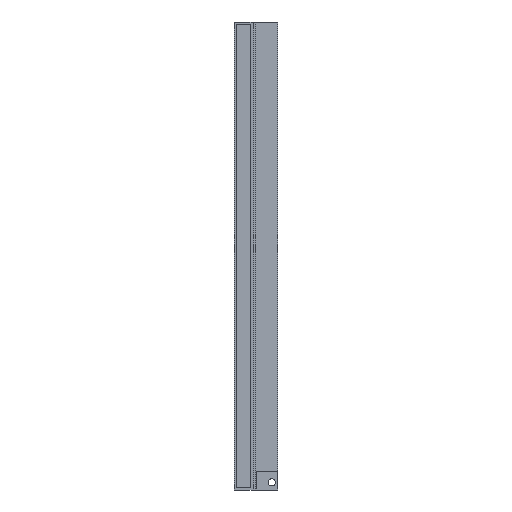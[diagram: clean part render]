
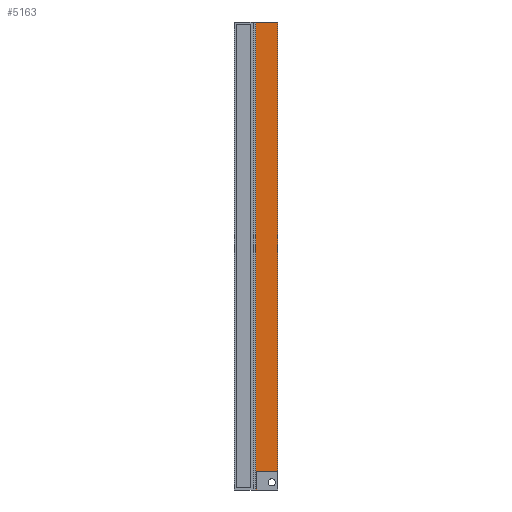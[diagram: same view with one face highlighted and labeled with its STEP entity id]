
A CAD part, front view. The second image highlights one B-rep face of the part: STEP entity #5163.
In plain terms, the highlighted planar face has unit normal (0, -1, 0).
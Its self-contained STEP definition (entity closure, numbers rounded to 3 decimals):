
#5127 = EDGE_CURVE('',#5128,#5130,#5132,.T.);
#5128 = VERTEX_POINT('',#5129);
#5129 = CARTESIAN_POINT('',(572.6,409.238,2.5));
#5130 = VERTEX_POINT('',#5131);
#5131 = CARTESIAN_POINT('',(572.6,409.238,628.5));
#5132 = LINE('',#5133,#5134);
#5133 = CARTESIAN_POINT('',(572.6,409.238,-4842.25));
#5134 = VECTOR('',#5135,1.);
#5135 = DIRECTION('',(0.,0.,1.));
#5163 = ADVANCED_FACE('',(#5164,#5189),#5200,.T.);
#5164 = FACE_BOUND('',#5165,.T.);
#5165 = EDGE_LOOP('',(#5166,#5167,#5175,#5183));
#5166 = ORIENTED_EDGE('',*,*,#5127,.F.);
#5167 = ORIENTED_EDGE('',*,*,#5168,.T.);
#5168 = EDGE_CURVE('',#5128,#5169,#5171,.T.);
#5169 = VERTEX_POINT('',#5170);
#5170 = CARTESIAN_POINT('',(602.5,409.238,2.5));
#5171 = LINE('',#5172,#5173);
#5172 = CARTESIAN_POINT('',(561.512,409.238,2.5));
#5173 = VECTOR('',#5174,1.);
#5174 = DIRECTION('',(1.,0.,0.));
#5175 = ORIENTED_EDGE('',*,*,#5176,.F.);
#5176 = EDGE_CURVE('',#5177,#5169,#5179,.T.);
#5177 = VERTEX_POINT('',#5178);
#5178 = CARTESIAN_POINT('',(602.5,409.238,628.5));
#5179 = LINE('',#5180,#5181);
#5180 = CARTESIAN_POINT('',(602.5,409.238,-49.881));
#5181 = VECTOR('',#5182,1.);
#5182 = DIRECTION('',(0.,0.,-1.));
#5183 = ORIENTED_EDGE('',*,*,#5184,.F.);
#5184 = EDGE_CURVE('',#5130,#5177,#5185,.T.);
#5185 = LINE('',#5186,#5187);
#5186 = CARTESIAN_POINT('',(561.512,409.238,628.5));
#5187 = VECTOR('',#5188,1.);
#5188 = DIRECTION('',(1.,0.,0.));
#5189 = FACE_BOUND('',#5190,.T.);
#5190 = EDGE_LOOP('',(#5191));
#5191 = ORIENTED_EDGE('',*,*,#5192,.T.);
#5192 = EDGE_CURVE('',#5193,#5193,#5195,.T.);
#5193 = VERTEX_POINT('',#5194);
#5194 = CARTESIAN_POINT('',(594.332,409.238,17.863));
#5195 = CIRCLE('',#5196,5.163);
#5196 = AXIS2_PLACEMENT_3D('',#5197,#5198,#5199);
#5197 = CARTESIAN_POINT('',(594.332,409.238,12.7));
#5198 = DIRECTION('',(0.,1.,0.));
#5199 = DIRECTION('',(0.,0.,1.));
#5200 = PLANE('',#5201);
#5201 = AXIS2_PLACEMENT_3D('',#5202,#5203,#5204);
#5202 = CARTESIAN_POINT('',(580.875,409.238,315.5));
#5203 = DIRECTION('',(-0.,-1.,-0.));
#5204 = DIRECTION('',(0.,0.,-1.));
